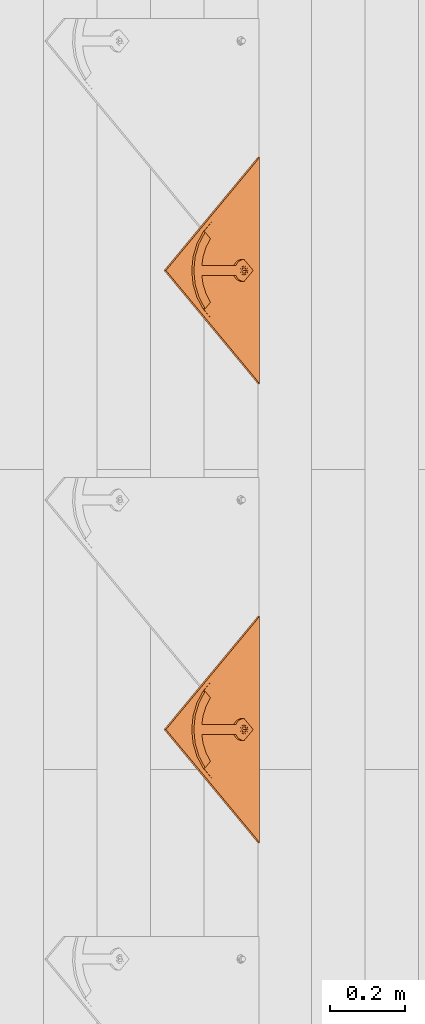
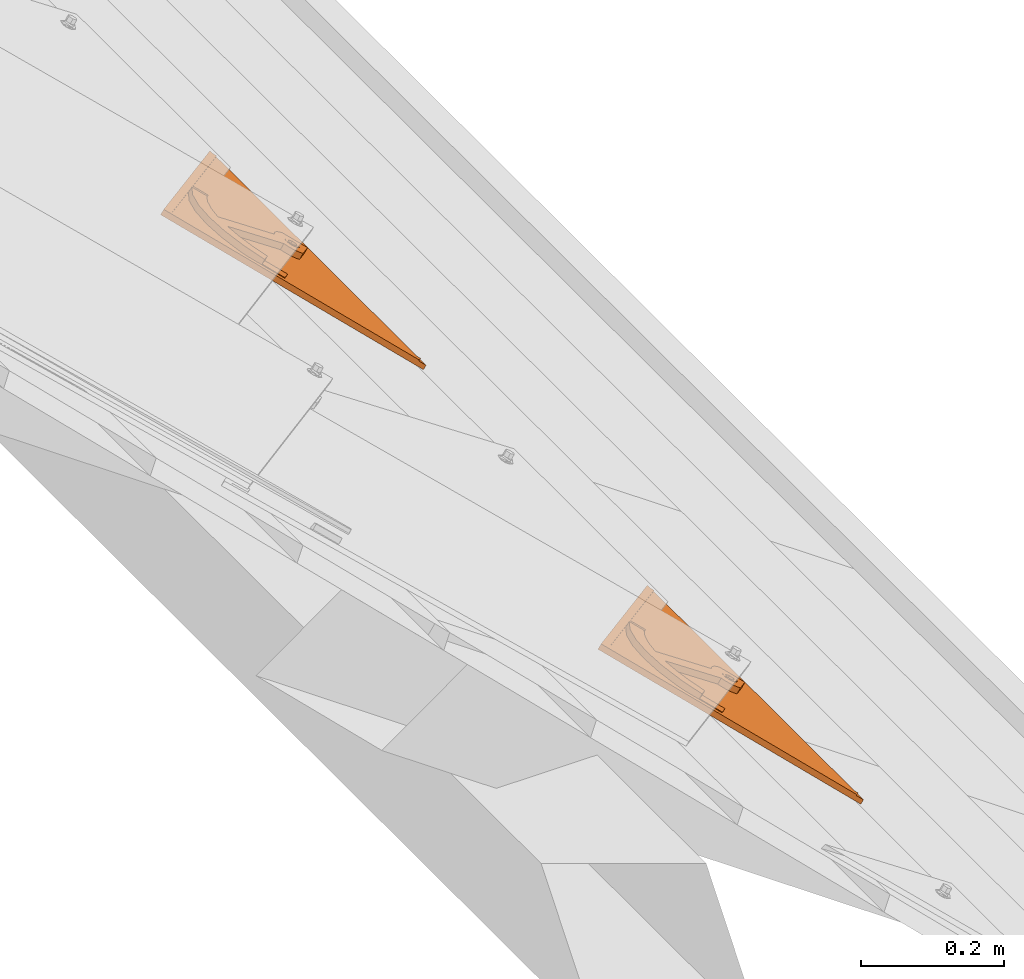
# One storey, part 134 of 151: 2 proxies.
"""IFC2X3 building model written with IfcOpenShell, lengths in millimetres."""

import ifcopenshell
import ifcopenshell.guid

model = None  # the IFC model being written
_history = None  # IfcOwnerHistory: only IFC2X3 demands one
_inside = {}  # id of a spatial element -> (the spatial element, [elements in it])
_under = {}  # id of a project, library or spatial element -> (it, [spatial elements below it])
_declared = {}  # id of a project -> (the project, [libraries it declares])
_typed = {}  # id of a type object -> (the type object, [elements of that type])
_made_of = {}  # id of a material, layer set ... -> (it, [elements and type objects made of it])


def new_model(schema):
    """Start an empty IFC model of exactly this schema.

    Asked for "IFC4X3", IfcOpenShell would pick the latest addendum, in which some entities
    have other attributes; the version numbers below select the first issue.
    IFC2X3 requires an IfcOwnerHistory on every rooted entity: one is made here for all.
    """
    global model, _history
    if schema == "IFC4X3":
        model = ifcopenshell.file(schema_version=(4, 3, 0, 0))
    else:
        model = ifcopenshell.file(schema=schema)
    _inside.clear()
    _under.clear()
    _declared.clear()
    _typed.clear()
    _made_of.clear()
    _history = None
    if model.schema == "IFC2X3":
        org = make("IfcOrganization", Name="unknown")
        user = make(
            "IfcPersonAndOrganization",
            ThePerson=make("IfcPerson", FamilyName="unknown"),
            TheOrganization=org,
        )
        app = make(
            "IfcApplication",
            ApplicationDeveloper=org,
            Version="unknown",
            ApplicationFullName="unknown",
            ApplicationIdentifier="unknown",
        )
        _history = make(
            "IfcOwnerHistory",
            OwningUser=user,
            OwningApplication=app,
            ChangeAction="ADDED",
            CreationDate=0,
        )
    return model


def make(cls, **values):
    """One entity of the class cls with the attributes given. An attribute that is None is left unset."""
    return model.create_entity(
        cls, **{name: value for name, value in values.items() if value is not None}
    )


def entity(cls, *values):
    """Any entity or typed value of the class cls, its attributes in the order of the schema. None: left unset."""
    e = model.create_entity(cls)
    for i, value in enumerate(values):
        if value is not None:
            e[i] = value
    return e


def rooted(cls, **values):
    """An entity with a GlobalId (a new one), such as an element, a storey or a relation."""
    return make(cls, GlobalId=ifcopenshell.guid.new(), OwnerHistory=_history, **values)


def si_unit(unit_type, name, prefix=None):
    """IfcSIUnit, for example si_unit("LENGTHUNIT", "METRE", prefix="MILLI")."""
    return make("IfcSIUnit", UnitType=unit_type, Prefix=prefix, Name=name)


def converted_unit(unit_type, name, factor, base, dimensions=None, offset=None):
    """IfcConversionBasedUnit, such as the inch: factor (a typed value) times the base unit."""
    return make(
        "IfcConversionBasedUnit"
        if offset is None
        else "IfcConversionBasedUnitWithOffset",
        ConversionOffset=offset,
        Dimensions=None
        if dimensions is None
        else entity("IfcDimensionalExponents", *dimensions),
        UnitType=unit_type,
        Name=name,
        ConversionFactor=make(
            "IfcMeasureWithUnit", ValueComponent=factor, UnitComponent=base
        ),
    )


def derived_unit(unit_type, elements):
    """IfcDerivedUnit: a product of units, each with its exponent."""
    return make(
        "IfcDerivedUnit",
        Elements=[
            make("IfcDerivedUnitElement", Unit=unit, Exponent=power)
            for unit, power in elements
        ],
        UnitType=unit_type,
    )


def assignment(units):
    """IfcUnitAssignment: the units of a project."""
    return None if units is None else make("IfcUnitAssignment", Units=units)


def point(xyz):
    """IfcCartesianPoint."""
    return None if xyz is None else make("IfcCartesianPoint", Coordinates=xyz)


def direction(xyz):
    """IfcDirection."""
    return None if xyz is None else make("IfcDirection", DirectionRatios=xyz)


def frame(location, z_axis=None, x_axis=None):
    """IfcAxis2Placement3D, a coordinate frame: its origin and axes. An axis left out is left unset."""
    return make(
        "IfcAxis2Placement3D",
        Location=point(location),
        Axis=direction(z_axis),
        RefDirection=direction(x_axis),
    )


def origin():
    """The frame at (0, 0, 0) with its axes left unset."""
    return frame((0.0, 0.0, 0.0))


def place(relative_to, where):
    """IfcLocalPlacement: puts the frame where relative to a parent placement (None: the world)."""
    return make(
        "IfcLocalPlacement", PlacementRelTo=relative_to, RelativePlacement=where
    )


def context(
    kind, dimensions, precision=None, world=None, true_north=None, identifier=None
):
    """IfcGeometricRepresentationContext, for example the 3D "Model" context."""
    return make(
        "IfcGeometricRepresentationContext",
        ContextIdentifier=identifier,
        ContextType=kind,
        CoordinateSpaceDimension=dimensions,
        Precision=precision,
        WorldCoordinateSystem=world,
        TrueNorth=true_north,
    )


def subcontext(parent, identifier, kind, view, scale=None):
    """IfcGeometricRepresentationSubContext, for example "Body" below "Model"."""
    return make(
        "IfcGeometricRepresentationSubContext",
        ContextIdentifier=identifier,
        ContextType=kind,
        ParentContext=parent,
        TargetScale=scale,
        TargetView=view,
    )


def project(units=None, contexts=None):
    """IfcProject with its units and contexts."""
    return rooted(
        "IfcProject",
        Name="project",
        RepresentationContexts=contexts,
        UnitsInContext=assignment(units),
    )


def spatial(cls, under=None, at=None, **own):
    """A site, building, storey or space (cls), placed at a placement, below another one or the project."""
    s = rooted(cls, ObjectPlacement=at, **own)
    if under is not None:
        _under.setdefault(under.id(), (under, []))[1].append(s)
    return s


def faces_of(points, faces, orient=None, outer=None):
    """IfcFace entities. A face is a list of loops; a loop is a list of indices into points, from 0.

    orient and outer hold one flag for each loop. By default every Orientation is true, the
    first loop of a face is its IfcFaceOuterBound and the others are IfcFaceBound.
    """
    made = []
    for i, loops in enumerate(faces):
        bounds = []
        for j, loop in enumerate(loops):
            is_outer = j == 0 if outer is None else outer[i][j]
            bounds.append(
                make(
                    "IfcFaceOuterBound" if is_outer else "IfcFaceBound",
                    Bound=make("IfcPolyLoop", Polygon=[points[k] for k in loop]),
                    Orientation=True if orient is None else orient[i][j],
                )
            )
        made.append(make("IfcFace", Bounds=bounds))
    return made


def faceted_brep(points, faces, orient=None, outer=None, voids=None):
    """IfcFacetedBrep: a solid bounded by flat faces; with voids (closed shells), ...WithVoids."""
    shared = [point(p) for p in points]
    hull = make("IfcClosedShell", CfsFaces=faces_of(shared, faces, orient, outer))
    if voids is None:
        return make("IfcFacetedBrep", Outer=hull)
    return make(
        "IfcFacetedBrepWithVoids",
        Outer=hull,
        Voids=[
            make(cls, CfsFaces=faces_of(shared, fs, o, b)) for cls, fs, o, b in voids
        ],
    )


def shape(context_of_items, identifier, shape_type, items):
    """IfcShapeRepresentation: the items that make up one representation, for example the "Body"."""
    return make(
        "IfcShapeRepresentation",
        ContextOfItems=context_of_items,
        RepresentationIdentifier=identifier,
        RepresentationType=shape_type,
        Items=items,
    )


def source(mapping_origin, context_of_items, identifier, shape_type, items):
    """IfcRepresentationMap: a shape defined once, which mapped items show again and again."""
    return make(
        "IfcRepresentationMap",
        MappingOrigin=mapping_origin,
        MappedRepresentation=shape(context_of_items, identifier, shape_type, items),
    )


def transform(
    local_origin,
    x_axis=None,
    y_axis=None,
    z_axis=None,
    scale=None,
    scale2=None,
    scale3=None,
    uniform=True,
):
    """IfcCartesianTransformationOperator3D, or its non-uniform kind. x_axis, y_axis, z_axis: its Axis1, 2, 3."""
    if uniform:
        return make(
            "IfcCartesianTransformationOperator3D",
            Axis1=direction(x_axis),
            Axis2=direction(y_axis),
            LocalOrigin=point(local_origin),
            Scale=scale,
            Axis3=direction(z_axis),
        )
    return make(
        "IfcCartesianTransformationOperator3DnonUniform",
        Axis1=direction(x_axis),
        Axis2=direction(y_axis),
        LocalOrigin=point(local_origin),
        Scale=scale,
        Axis3=direction(z_axis),
        Scale2=scale2,
        Scale3=scale3,
    )


def mapped(mapping_source, mapping_target):
    """IfcMappedItem: shows the shape of a source again, moved by a transform."""
    return make(
        "IfcMappedItem", MappingSource=mapping_source, MappingTarget=mapping_target
    )


def material(Name=None, Category=None):
    """IfcMaterial."""
    return make("IfcMaterial", Name=Name, Category=Category)


def material_list(materials):
    """IfcMaterialList."""
    return make("IfcMaterialList", Materials=materials)


def made_of(thing, what):
    """Note that an element or type object is made of a material, layer set ...; save() writes the relation."""
    if what is not None:
        _made_of.setdefault(what.id(), (what, []))[1].append(thing)
    return thing


def type_object(cls, material=None, **own):
    """A type object (cls), such as IfcWallType, which elements share."""
    return made_of(rooted(cls, **own), material)


def type_shapes(of_type, sources):
    """Give a type object the sources (RepresentationMaps) that its elements show as mapped items."""
    of_type.RepresentationMaps = sources


def element(
    cls,
    number,
    at=None,
    inside=None,
    cuts=None,
    type_object=None,
    material=None,
    context=None,
    identifier="Body",
    shape_type=None,
    held_by="IfcProductDefinitionShape",
    body=None,
    shapes=None,
    **own,
):
    """One element of the class cls, such as IfcWall. Its Tag is "e" and its number.

    at: its placement. inside: the storey or other place that contains it. cuts: it is an
    opening in that element (IfcRelVoidsElement). A single representation is given by context,
    identifier, shape_type and body (its items); several are given by shapes. held_by: the class
    of the entity that holds the representations. save() writes the other relations.
    """
    e = rooted(cls, Tag="e%d" % number, ObjectPlacement=at, **own)
    if body is not None:
        shapes = [shape(context, identifier, shape_type, body)]
    if shapes is not None:
        e.Representation = make(held_by, Representations=shapes)
    if inside is not None:
        _inside.setdefault(inside.id(), (inside, []))[1].append(e)
    if cuts is not None:
        rooted(
            "IfcRelVoidsElement", RelatingBuildingElement=cuts, RelatedOpeningElement=e
        )
    if type_object is not None:
        _typed.setdefault(type_object.id(), (type_object, []))[1].append(e)
    return made_of(e, material)


def aggregate(whole, parts):
    """IfcRelAggregates: a whole, such as a stair, and the parts it consists of."""
    return rooted("IfcRelAggregates", RelatingObject=whole, RelatedObjects=parts)


def save(model, path):
    """Write the relations noted so far, then the file.

    IfcRelAggregates (storeys below a building ...), IfcRelContainedInSpatialStructure (elements
    in a storey), IfcRelDefinesByType, IfcRelAssociatesMaterial and IfcRelDeclares: one each for
    every whole, place, type object, material and project.
    """
    for whole, parts in _under.values():
        aggregate(whole, parts)
    for where, things in _inside.values():
        rooted(
            "IfcRelContainedInSpatialStructure",
            RelatedElements=things,
            RelatingStructure=where,
        )
    for kind, things in _typed.values():
        rooted("IfcRelDefinesByType", RelatedObjects=things, RelatingType=kind)
    for what, things in _made_of.values():
        rooted("IfcRelAssociatesMaterial", RelatedObjects=things, RelatingMaterial=what)
    for by, libraries in _declared.values():
        rooted("IfcRelDeclares", RelatingContext=by, RelatedDefinitions=libraries)
    model.write(path)


model = new_model("IFC2X3")

# Units and contexts
model_context = context("Model", 3, precision=0.01, world=origin(), true_north=direction((6.12303176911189e-17, 1.0)))
body_context = subcontext(model_context, "Body", "Model", "MODEL_VIEW")
ifc_project = project(units=[si_unit("LENGTHUNIT", "METRE", prefix="MILLI"), si_unit("AREAUNIT", "SQUARE_METRE"), si_unit("VOLUMEUNIT", "CUBIC_METRE"), converted_unit("PLANEANGLEUNIT", "DEGREE", entity("IfcRatioMeasure", 0.0174532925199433), si_unit("PLANEANGLEUNIT", "RADIAN"), dimensions=[0, 0, 0, 0, 0, 0, 0]), si_unit("MASSUNIT", "GRAM", prefix="KILO"), derived_unit("MASSDENSITYUNIT", [(si_unit("MASSUNIT", "GRAM", prefix="KILO"), 1), (si_unit("LENGTHUNIT", "METRE"), -3)]), si_unit("TIMEUNIT", "SECOND"), si_unit("FREQUENCYUNIT", "HERTZ"), si_unit("THERMODYNAMICTEMPERATUREUNIT", "DEGREE_CELSIUS"), derived_unit("THERMALTRANSMITTANCEUNIT", [(si_unit("MASSUNIT", "GRAM", prefix="KILO"), 1), (si_unit("THERMODYNAMICTEMPERATUREUNIT", "KELVIN"), -1), (si_unit("TIMEUNIT", "SECOND"), -3)]), derived_unit("VOLUMETRICFLOWRATEUNIT", [(si_unit("LENGTHUNIT", "METRE"), 3), (si_unit("TIMEUNIT", "SECOND"), -1)]), si_unit("ELECTRICCURRENTUNIT", "AMPERE"), si_unit("ELECTRICVOLTAGEUNIT", "VOLT"), si_unit("POWERUNIT", "WATT"), si_unit("FORCEUNIT", "NEWTON", prefix="KILO"), si_unit("ILLUMINANCEUNIT", "LUX"), si_unit("LUMINOUSFLUXUNIT", "LUMEN"), si_unit("LUMINOUSINTENSITYUNIT", "CANDELA"), derived_unit("USERDEFINED", [(si_unit("MASSUNIT", "GRAM", prefix="KILO"), -1), (si_unit("LENGTHUNIT", "METRE"), -2), (si_unit("TIMEUNIT", "SECOND"), 3), (si_unit("LUMINOUSFLUXUNIT", "LUMEN"), 1)]), derived_unit("LINEARVELOCITYUNIT", [(si_unit("LENGTHUNIT", "METRE"), 1), (si_unit("TIMEUNIT", "SECOND"), -1)]), si_unit("PRESSUREUNIT", "PASCAL"), derived_unit("USERDEFINED", [(si_unit("LENGTHUNIT", "METRE"), -2), (si_unit("MASSUNIT", "GRAM", prefix="KILO"), 1), (si_unit("TIMEUNIT", "SECOND"), -2)])], contexts=[model_context])

# Site, building, storey
site_placement = place(None, origin())
site = spatial("IfcSite", under=ifc_project, at=site_placement, Name="Default", CompositionType="ELEMENT")
building_placement = place(site_placement, origin())
building = spatial("IfcBuilding", under=site, at=building_placement, CompositionType="ELEMENT")
storey_placement = place(building_placement, origin())
storey = spatial("IfcBuildingStorey", under=building, at=storey_placement, Name="Level 1", CompositionType="ELEMENT", Elevation=0.0)

# Proxies
ifc_material_1 = material(Name="Rubber - Sunstyle - Black")
ifc_material_2 = material(Name="Glass - Sunstyle - Tainted Black")
ifc_material_list_1 = material_list([ifc_material_1, ifc_material_2])
ifc_material_list_2 = material_list([ifc_material_1, ifc_material_2])
building_element_proxy_type = type_object("IfcBuildingElementProxyType", Name="Shingle Bottom Small - Black", PredefinedType="NOTDEFINED", material=ifc_material_list_2)
shared_shape = source(origin(), body_context, "Body", "Brep", [
    faceted_brep([(302.08842791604, 44.9093317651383, 22.0558382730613), (302.08842791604, 49.408700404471, 21.980485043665), (293.484723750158, 48.4726030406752, 21.9961623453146), (310.692132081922, 48.4726030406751, 21.9961623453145), (308.728656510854, 53.2419006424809, 21.9162884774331), (314.255903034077, 57.0751008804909, 21.8520919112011), (308.728656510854, 60.9083011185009, 21.7878953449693), (310.692132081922, 65.6775987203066, 21.7080214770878), (302.08842791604, 64.7415013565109, 21.7236987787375), (302.08842791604, 69.2408699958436, 21.6483455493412), (293.484723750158, 65.6775987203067, 21.708021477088), (295.448199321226, 60.908301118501, 21.7878953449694), (289.920952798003, 57.0751008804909, 21.8520919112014), (295.448199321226, 53.2419006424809, 21.9162884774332), (295.448199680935, 60.6403782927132, 5.79013870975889), (302.08842791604, 64.473578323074, 5.72594214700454), (295.448199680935, 52.9739782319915, 5.91853183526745), (302.08842791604, 49.1407782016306, 5.98272839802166), (308.728656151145, 52.9739782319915, 5.91853183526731), (308.728656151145, 60.6403782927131, 5.79013870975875), (293.484723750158, 48.2046804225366, 5.99840570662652), (302.08842791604, 44.6414091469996, 6.05808163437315), (289.920952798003, 56.8071782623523, 5.85433527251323), (293.484723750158, 65.4096761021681, 5.71026483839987), (302.08842791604, 68.972947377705, 5.65058891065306), (310.692132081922, 65.409676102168, 5.71026483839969), (314.255903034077, 56.8071782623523, 5.85433527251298), (310.692132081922, 48.2046804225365, 5.99840570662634)], [[[0, 1, 2]], [[1, 0, 3]], [[3, 4, 1]], [[4, 3, 5]], [[6, 4, 5]], [[5, 7, 6]], [[7, 8, 6]], [[8, 7, 9]], [[8, 9, 10]], [[10, 11, 8]], [[12, 11, 10]], [[2, 13, 12]], [[12, 13, 11]], [[13, 2, 1]], [[8, 11, 14, 15]], [[11, 13, 16, 14]], [[13, 1, 17, 16]], [[1, 4, 18, 17]], [[4, 6, 19, 18]], [[6, 8, 15, 19]], [[20, 17, 21]], [[17, 20, 16]], [[22, 16, 20]], [[14, 16, 22]], [[23, 14, 22]], [[15, 14, 23]], [[23, 24, 15]], [[24, 25, 15]], [[19, 15, 25]], [[19, 25, 26]], [[26, 18, 19]], [[26, 27, 18]], [[17, 18, 27]], [[27, 21, 17]], [[24, 23, 10, 9]], [[10, 23, 22, 12]], [[20, 21, 0, 2]], [[20, 2, 12, 22]], [[21, 27, 3, 0]], [[3, 27, 26, 5]], [[25, 24, 9, 7]], [[25, 7, 5, 26]]]),
    faceted_brep([(587.35835892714, 0.0, 12.5593198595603), (595.843045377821, 8.4846864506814, 12.4172224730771), (595.843045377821, 8.50980419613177, 13.9170121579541), (587.35835892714, 0.0251177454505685, 14.0591095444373), (302.088750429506, 285.189618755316, 7.7831033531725), (16.8191419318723, 0.0, 12.5593198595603), (8.33445548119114, 8.48468645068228, 12.4172224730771), (302.088750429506, 302.156612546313, 7.49894842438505), (302.088750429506, 302.181730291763, 8.9987381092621), (8.33445548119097, 8.50980419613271, 13.9170121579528), (16.8191419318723, 0.0251177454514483, 14.0591095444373), (302.088750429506, 285.214736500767, 9.28289303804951)], [[[0, 1, 2, 3]], [[1, 0, 4, 5, 6, 7]], [[2, 1, 7, 8]], [[3, 2, 8, 9, 10, 11]], [[0, 3, 11, 4]], [[5, 10, 9, 6]], [[8, 7, 6, 9]], [[4, 11, 10, 5]]]),
    faceted_brep([(302.088750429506, 302.156612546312, 7.49894842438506), (305.194256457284, 68.3255429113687, 11.4150370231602), (308.088427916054, 67.1269059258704, 11.4351112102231), (302.088427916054, 68.7343756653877, 11.4081900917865), (310.573709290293, 65.2201498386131, 11.4670446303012), (298.982599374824, 68.3255429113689, 11.4150370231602), (296.088427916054, 67.1269059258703, 11.4351112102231), (293.603146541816, 65.2201498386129, 11.4670446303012), (312.480732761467, 62.7352169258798, 11.5086610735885), (604.177500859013, 0.152567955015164, 12.5567647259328), (291.696123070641, 62.7352169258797, 11.5086610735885), (0.0, 0.152567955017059, 12.5567647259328), (290.497318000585, 59.8414512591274, 11.5571244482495), (290.088427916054, 56.7360581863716, 11.6091320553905), (290.497318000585, 53.6306651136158, 11.6611396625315), (291.696123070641, 50.7368994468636, 11.7096030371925), (293.603146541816, 48.2519665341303, 11.7512194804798), (296.088427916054, 46.3452104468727, 11.7831529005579), (298.982599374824, 45.1465734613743, 11.8032270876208), (302.088427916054, 44.7377407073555, 11.8100740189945), (313.679537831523, 59.8414512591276, 11.5571244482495), (314.088427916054, 56.7360581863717, 11.6091320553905), (313.679537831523, 53.6306651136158, 11.6611396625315), (312.480732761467, 50.7368994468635, 11.7096030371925), (310.573709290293, 48.2519665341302, 11.7512194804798), (308.088427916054, 46.3452104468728, 11.7831529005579), (305.194256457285, 45.1465734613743, 11.8032270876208), (0.0, 0.0269792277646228, 5.0578163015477), (290.088427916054, 56.6104694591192, 4.11018363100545), (290.497318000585, 53.5050763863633, 4.16219123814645), (290.497318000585, 59.7158625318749, 4.05817602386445), (291.696123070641, 50.6113107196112, 4.21065461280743), (291.696123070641, 62.6096281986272, 4.00971264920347), (302.088750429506, 302.031023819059, 0.0), (293.603146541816, 48.1263778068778, 4.25227105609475), (296.088427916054, 46.2196217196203, 4.28420447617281), (298.982599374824, 45.0209847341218, 4.30427866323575), (302.088427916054, 44.612151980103, 4.31112559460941), (604.177500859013, 0.0269792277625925, 5.05781630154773), (293.603146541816, 65.0945611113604, 3.96809620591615), (296.088427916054, 67.0013171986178, 3.93616278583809), (298.982599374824, 68.1999541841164, 3.91608859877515), (302.088427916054, 68.6087869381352, 3.90924166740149), (305.194256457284, 68.1999541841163, 3.91608859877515), (308.088427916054, 67.0013171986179, 3.93616278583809), (310.573709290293, 65.0945611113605, 3.96809620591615), (312.480732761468, 62.6096281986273, 4.00971264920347), (305.194256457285, 45.0209847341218, 4.30427866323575), (308.088427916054, 46.2196217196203, 4.28420447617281), (313.679537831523, 59.7158625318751, 4.05817602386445), (314.088427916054, 56.6104694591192, 4.11018363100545), (313.679537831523, 53.5050763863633, 4.16219123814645), (312.480732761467, 50.611310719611, 4.21065461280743), (310.573709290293, 48.1263778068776, 4.25227105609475)], [[[0, 1, 2]], [[1, 0, 3]], [[0, 2, 4]], [[5, 3, 0]], [[6, 5, 0]], [[0, 7, 6]], [[8, 0, 4]], [[0, 8, 9]], [[7, 0, 10]], [[0, 11, 10]], [[12, 10, 11]], [[11, 13, 12]], [[13, 11, 14]], [[15, 14, 11]], [[11, 16, 15]], [[17, 16, 11]], [[17, 11, 18]], [[19, 18, 11]], [[19, 11, 9]], [[9, 8, 20]], [[20, 21, 9]], [[21, 22, 9]], [[22, 23, 9]], [[9, 23, 24]], [[24, 25, 9]], [[25, 26, 9]], [[9, 26, 19]], [[27, 28, 29]], [[28, 27, 30]], [[27, 29, 31]], [[32, 30, 27]], [[32, 27, 33]], [[31, 34, 27]], [[34, 35, 27]], [[35, 36, 27]], [[36, 37, 27]], [[27, 37, 38]], [[33, 39, 32]], [[40, 39, 33]], [[41, 40, 33]], [[42, 41, 33]], [[33, 43, 42]], [[43, 33, 44]], [[45, 44, 33]], [[33, 46, 45]], [[46, 33, 38]], [[38, 37, 47]], [[47, 48, 38]], [[49, 46, 38]], [[38, 50, 49]], [[50, 38, 51]], [[52, 51, 38]], [[53, 52, 38]], [[53, 38, 48]], [[11, 0, 33, 27]], [[0, 9, 38, 33]], [[13, 28, 30, 12]], [[12, 30, 32, 10]], [[6, 7, 39, 40]], [[39, 7, 10, 32]], [[5, 6, 40, 41]], [[5, 41, 42, 3]], [[3, 42, 43, 1]], [[1, 43, 44, 2]], [[8, 4, 45, 46]], [[45, 4, 2, 44]], [[20, 8, 46, 49]], [[20, 49, 50, 21]], [[21, 50, 51, 22]], [[22, 51, 52, 23]], [[25, 24, 53, 48]], [[53, 24, 23, 52]], [[26, 25, 48, 47]], [[26, 47, 37, 19]], [[19, 37, 36, 18]], [[18, 36, 35, 17]], [[15, 16, 34, 31]], [[34, 16, 17, 35]], [[14, 15, 31, 29]], [[14, 29, 28, 13]], [[9, 11, 27, 38]]]),
    faceted_brep([(190.819384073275, 138.646056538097, 12.7376939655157), (217.144031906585, 164.967013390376, 12.2968834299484), (200.060856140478, 182.04779392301, 12.0108228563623), (193.80845410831, 176.686146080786, 12.100617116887), (187.837458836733, 171.012871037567, 12.1956303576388), (173.141714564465, 156.321247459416, 12.4416784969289), (431.035141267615, 156.321247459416, 12.4416784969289), (416.339396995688, 171.012871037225, 12.1956303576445), (410.36840172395, 176.686146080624, 12.1006171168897), (404.115999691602, 182.047793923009, 12.0108228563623), (387.031626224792, 164.968210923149, 12.2968633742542), (413.357471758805, 138.646056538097, 12.7376939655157), (296.088427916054, 67.294357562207, 21.4337091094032), (288.788427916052, 83.1076295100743, 21.1688761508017), (283.384321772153, 79.569581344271, 21.2281296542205), (293.603146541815, 65.3876014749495, 21.4656425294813), (298.982599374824, 68.4929945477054, 21.4136349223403), (302.088427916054, 68.9018273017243, 21.4067879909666), (315.388427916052, 83.107629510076, 21.1688761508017), (305.194256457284, 68.4929945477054, 21.4136349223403), (308.088427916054, 67.2943575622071, 21.4337091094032), (320.792534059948, 79.5695813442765, 21.2281296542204), (310.573709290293, 65.3876014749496, 21.4656425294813), (325.293078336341, 74.9365758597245, 21.3057209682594), (312.480732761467, 62.9026685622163, 21.5072589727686), (328.672647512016, 69.4324252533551, 21.3979017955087), (313.679537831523, 60.0089028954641, 21.5557223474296), (330.767980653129, 63.323025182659, 21.500219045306), (314.088427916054, 56.9035098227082, 21.6077299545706), (331.477855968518, 56.9035098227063, 21.6077299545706), (313.679537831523, 53.7981167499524, 21.6597375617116), (312.480732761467, 50.9043510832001, 21.7082009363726), (310.573709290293, 48.4194181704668, 21.7498173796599), (302.08842791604, 27.5182024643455, 22.0998607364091), (308.088427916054, 46.5126620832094, 21.7817507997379), (305.194256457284, 45.314025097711, 21.8018249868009), (302.088427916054, 44.9051923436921, 21.8086719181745), (298.982599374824, 45.314025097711, 21.8018249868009), (296.088427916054, 46.5126620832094, 21.7817507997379), (293.603146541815, 48.4194181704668, 21.7498173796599), (272.69899986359, 56.903509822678, 21.6077299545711), (291.696123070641, 50.9043510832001, 21.7082009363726), (290.497318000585, 53.7981167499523, 21.6597375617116), (290.088427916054, 56.9035098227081, 21.6077299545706), (273.408875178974, 63.3230251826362, 21.5002190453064), (290.497318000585, 60.008902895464, 21.5557223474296), (275.504208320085, 69.4324252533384, 21.397901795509), (291.696123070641, 62.9026685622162, 21.5072589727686), (278.883777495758, 74.9365758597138, 21.3057209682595), (288.788427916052, 192.984512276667, 19.3287117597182), (315.388427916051, 192.984512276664, 19.3287117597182), (302.088427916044, 218.456125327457, 18.9021256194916), (338.579268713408, 214.282159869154, 18.9720291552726), (340.858170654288, 188.169632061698, 19.4093490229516), (373.184513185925, 201.975945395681, 19.1781276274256), (365.012761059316, 178.765998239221, 19.5668364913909), (404.115999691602, 182.173382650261, 19.5097712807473), (387.032823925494, 165.092602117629, 19.7958318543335), (265.59758711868, 214.28215986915, 18.9720291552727), (263.318685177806, 188.169632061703, 19.4093490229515), (230.992342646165, 201.975945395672, 19.1781276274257), (239.164094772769, 178.765998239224, 19.5668364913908), (200.06085614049, 182.173382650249, 19.5097712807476), (217.144031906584, 165.092602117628, 19.7958318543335), (302.08842791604, 27.3507508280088, 12.1012628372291), (302.088427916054, 44.7377407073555, 11.8100740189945), (305.194256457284, 45.1465734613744, 11.8032270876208), (298.982599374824, 45.1465734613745, 11.8032270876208), (308.088427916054, 46.3452104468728, 11.7831529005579), (310.573709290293, 48.2519665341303, 11.7512194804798), (331.477855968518, 56.7360581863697, 11.6091320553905), (296.088427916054, 46.3452104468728, 11.7831529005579), (293.603146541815, 48.2519665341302, 11.7512194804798), (272.69899986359, 56.7360581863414, 11.609132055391), (291.696123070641, 50.7368994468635, 11.7096030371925), (290.497318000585, 53.6306651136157, 11.6611396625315), (290.088427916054, 56.7360581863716, 11.6091320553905), (273.408875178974, 63.1555735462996, 11.5016211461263), (290.497318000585, 59.8414512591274, 11.5571244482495), (275.504208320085, 69.2649736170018, 11.3993038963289), (291.696123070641, 62.7352169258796, 11.5086610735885), (278.883777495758, 74.7691242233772, 11.3071230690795), (293.603146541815, 65.2201498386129, 11.4670446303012), (283.384321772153, 79.4021297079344, 11.2295317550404), (296.088427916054, 67.1269059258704, 11.4351112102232), (288.788427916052, 82.9401778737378, 11.1702782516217), (298.982599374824, 68.3255429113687, 11.4150370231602), (302.088427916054, 68.7343756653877, 11.4081900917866), (315.388427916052, 82.9401778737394, 11.1702782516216), (288.788427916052, 192.81706064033, 9.33011386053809), (315.388427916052, 192.817060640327, 9.33011386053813), (302.088427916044, 218.28867369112, 8.90352772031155), (265.59758711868, 214.114708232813, 8.97343125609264), (263.318685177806, 188.002180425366, 9.41075112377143), (230.992342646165, 201.808493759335, 9.17952972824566), (239.164094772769, 178.598546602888, 9.56823859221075), (200.06085614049, 182.005931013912, 9.51117338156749), (217.145229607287, 164.926348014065, 9.79721389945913), (193.80845410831, 176.644283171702, 9.60096764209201), (187.837458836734, 170.971008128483, 9.69598088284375), (190.819384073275, 138.604193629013, 10.2380444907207), (173.141714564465, 156.279384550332, 9.94202902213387), (338.579268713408, 214.114708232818, 8.97343125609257), (340.858170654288, 188.002180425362, 9.41075112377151), (373.184513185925, 201.808493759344, 9.17952972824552), (365.012761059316, 178.598546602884, 9.5682385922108), (404.115999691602, 182.005931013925, 9.51117338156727), (387.032823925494, 164.925150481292, 9.79723395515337), (410.36840172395, 176.64428317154, 9.60096764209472), (416.339396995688, 170.971008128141, 9.69598088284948), (413.357471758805, 138.604193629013, 10.2380444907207), (431.035141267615, 156.279384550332, 9.94202902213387), (305.194256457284, 68.3255429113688, 11.4150370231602), (308.088427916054, 67.1269059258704, 11.4351112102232), (320.792534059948, 79.4021297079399, 11.2295317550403), (310.573709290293, 65.220149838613, 11.4670446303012), (325.293078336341, 74.7691242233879, 11.3071230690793), (312.480732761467, 62.7352169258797, 11.5086610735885), (328.672647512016, 69.2649736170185, 11.3993038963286), (313.679537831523, 59.8414512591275, 11.5571244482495), (330.767980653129, 63.1555735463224, 11.5016211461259), (314.088427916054, 56.7360581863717, 11.6091320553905), (312.480732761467, 50.7368994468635, 11.7096030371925), (313.679537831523, 53.6306651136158, 11.6611396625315)], [[[0, 1, 2, 3, 4, 5]], [[6, 7, 8, 9, 10, 11]], [[12, 13, 14]], [[12, 14, 15]], [[16, 13, 12]], [[17, 13, 16]], [[18, 13, 17]], [[17, 19, 18]], [[19, 20, 18]], [[20, 21, 18]], [[21, 20, 22]], [[21, 22, 23]], [[24, 23, 22]], [[23, 24, 25]], [[24, 26, 25]], [[27, 25, 26]], [[26, 28, 27]], [[29, 27, 28]], [[28, 30, 29]], [[30, 31, 29]], [[29, 31, 32]], [[32, 33, 29]], [[32, 34, 33]], [[35, 33, 34]], [[36, 33, 35]], [[33, 36, 37]], [[38, 33, 37]], [[38, 39, 33]], [[40, 33, 39]], [[41, 40, 39]], [[41, 42, 40]], [[42, 43, 40]], [[43, 44, 40]], [[45, 44, 43]], [[45, 46, 44]], [[45, 47, 46]], [[48, 46, 47]], [[48, 47, 15]], [[48, 15, 14]], [[18, 49, 13]], [[50, 49, 18]], [[51, 49, 50]], [[50, 52, 51]], [[50, 53, 52]], [[52, 53, 54]], [[53, 55, 54]], [[56, 54, 55]], [[57, 56, 55]], [[58, 49, 51]], [[49, 58, 59]], [[60, 59, 58]], [[60, 61, 59]], [[61, 60, 62]], [[62, 63, 61]], [[64, 65, 66]], [[65, 64, 67]], [[64, 66, 68]], [[68, 69, 64]], [[64, 69, 70]], [[71, 67, 64]], [[71, 64, 72]], [[72, 64, 73]], [[73, 74, 72]], [[74, 73, 75]], [[75, 73, 76]], [[77, 76, 73]], [[76, 77, 78]], [[78, 77, 79]], [[80, 78, 79]], [[81, 80, 79]], [[82, 80, 81]], [[83, 82, 81]], [[83, 84, 82]], [[85, 84, 83]], [[85, 86, 84]], [[87, 86, 85]], [[88, 87, 85]], [[89, 88, 85]], [[88, 89, 90]], [[89, 91, 90]], [[91, 89, 92]], [[93, 92, 89]], [[92, 93, 94]], [[95, 94, 93]], [[96, 94, 95]], [[95, 97, 96]], [[97, 98, 96]], [[98, 97, 99]], [[97, 100, 99]], [[99, 100, 101]], [[90, 91, 102]], [[103, 90, 102]], [[103, 102, 104]], [[105, 103, 104]], [[106, 105, 104]], [[107, 105, 106]], [[106, 108, 107]], [[109, 107, 108]], [[110, 107, 109]], [[109, 111, 110]], [[112, 87, 88]], [[113, 112, 88]], [[114, 113, 88]], [[115, 113, 114]], [[115, 114, 116]], [[116, 117, 115]], [[117, 116, 118]], [[118, 119, 117]], [[120, 119, 118]], [[121, 120, 70]], [[120, 121, 119]], [[70, 69, 122]], [[122, 123, 70]], [[123, 121, 70]], [[13, 49, 89, 85]], [[14, 13, 85, 83]], [[48, 14, 83, 81]], [[81, 79, 46, 48]], [[44, 46, 79, 77]], [[40, 44, 77, 73]], [[33, 40, 73, 64]], [[0, 5, 101, 100]], [[29, 33, 64, 70]], [[6, 11, 110, 111]], [[27, 29, 70, 120]], [[25, 27, 120, 118]], [[118, 116, 23, 25]], [[21, 23, 116, 114]], [[18, 21, 114, 88]], [[50, 18, 88, 90]], [[9, 106, 104, 54, 56]], [[52, 54, 104, 102]], [[51, 52, 102, 91]], [[58, 51, 91, 92]], [[94, 96, 2, 62, 60]], [[60, 58, 92, 94]], [[43, 76, 78, 45]], [[45, 78, 80, 47]], [[12, 15, 82, 84]], [[80, 82, 15, 47]], [[16, 12, 84, 86]], [[87, 17, 16, 86]], [[19, 112, 113, 20]], [[20, 113, 115, 22]], [[26, 24, 117, 119]], [[115, 117, 24, 22]], [[28, 26, 119, 121]], [[19, 17, 87, 112]], [[28, 121, 123, 30]], [[30, 123, 122, 31]], [[34, 32, 69, 68]], [[122, 69, 32, 31]], [[35, 34, 68, 66]], [[65, 36, 35, 66]], [[37, 67, 71, 38]], [[38, 71, 72, 39]], [[42, 41, 74, 75]], [[72, 74, 41, 39]], [[43, 42, 75, 76]], [[37, 36, 65, 67]], [[7, 6, 111, 109]], [[7, 109, 108, 8]], [[108, 106, 9, 8]], [[11, 10, 107, 110]], [[1, 0, 100, 97]], [[2, 96, 98, 3]], [[98, 99, 4, 3]], [[5, 4, 99, 101]], [[63, 62, 2, 1]], [[56, 57, 10]], [[10, 9, 56]], [[1, 95, 61, 63]], [[1, 97, 95]], [[93, 89, 49, 59]], [[95, 93, 59, 61]], [[90, 103, 53, 50]], [[103, 105, 55, 53]], [[10, 57, 55]], [[107, 10, 105]], [[55, 105, 10]]]),
])
type_shapes(building_element_proxy_type, [shared_shape])
proxy_1_placement = place(storey_placement, frame((4560.90421878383, -716.208027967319, 520.069325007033), z_axis=(0.573576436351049, 0.0, 0.81915204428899), x_axis=(0.0, 1.0, 0.0)))
element("IfcBuildingElementProxy", 1, at=proxy_1_placement, inside=storey, type_object=building_element_proxy_type, material=ifc_material_list_1, Name="Roofing_Panels_SunStyle_Tile_Shingle-Bottom-Small:Shingle Bottom Small - Black", ObjectType="Roofing_Panels_SunStyle_Tile_Shingle-Bottom-Small:Shingle Bottom Small - Black", context=body_context, shape_type="MappedRepresentation", body=[
    mapped(shared_shape, transform((0.0, 0.0, 0.0), scale=1.0)),
])
ifc_material_list_3 = material_list([ifc_material_1, ifc_material_2])
proxy_2_placement = place(storey_placement, frame((4560.90421878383, -1939.95610757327, 520.069325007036), z_axis=(0.573576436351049, 0.0, 0.81915204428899), x_axis=(0.0, 1.0, 0.0)))
element("IfcBuildingElementProxy", 2, at=proxy_2_placement, inside=storey, type_object=building_element_proxy_type, material=ifc_material_list_3, Name="Roofing_Panels_SunStyle_Tile_Shingle-Bottom-Small:Shingle Bottom Small - Black", ObjectType="Roofing_Panels_SunStyle_Tile_Shingle-Bottom-Small:Shingle Bottom Small - Black", context=body_context, shape_type="MappedRepresentation", body=[
    mapped(shared_shape, transform((0.0, 0.0, 0.0), scale=1.0)),
])

save(model, "model.ifc")
